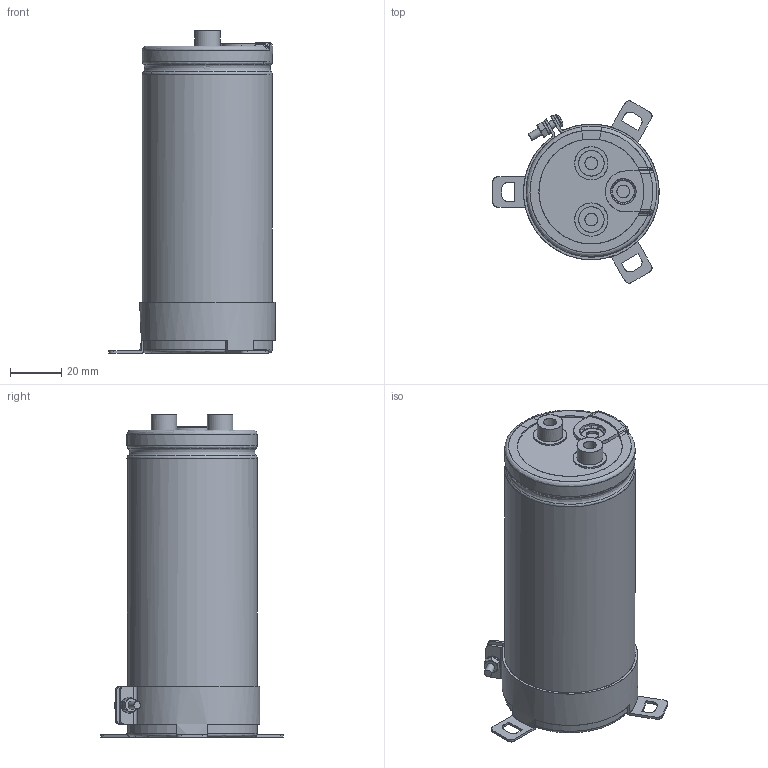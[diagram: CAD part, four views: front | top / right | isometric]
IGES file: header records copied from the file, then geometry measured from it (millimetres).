
Start section: JAMA-IS VERSION  1.0
Bounding box: 65 x 71.22 x 126 mm (x, y, z)
Surface area: 71955.5 mm2 (no closed solid volume)
Topology: 0 solids, 0 shells, 298 faces, 4625 edges, 4595 vertices
Faces by surface type: bspline 298
